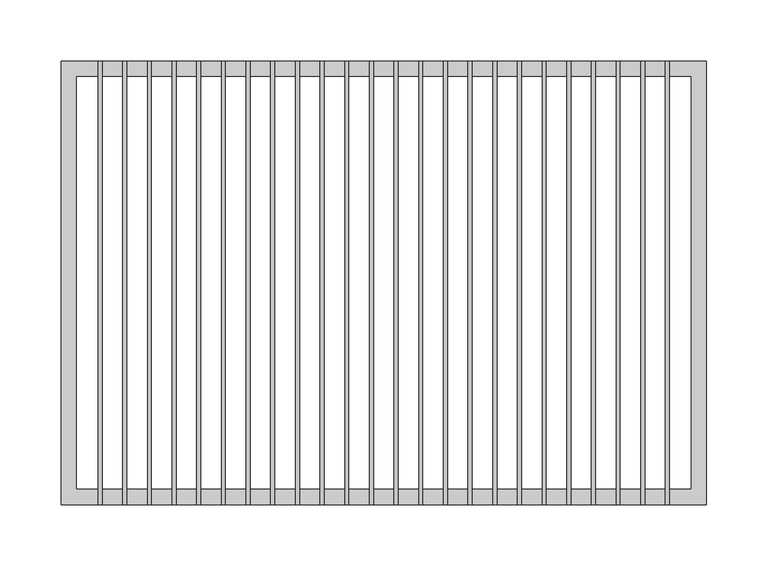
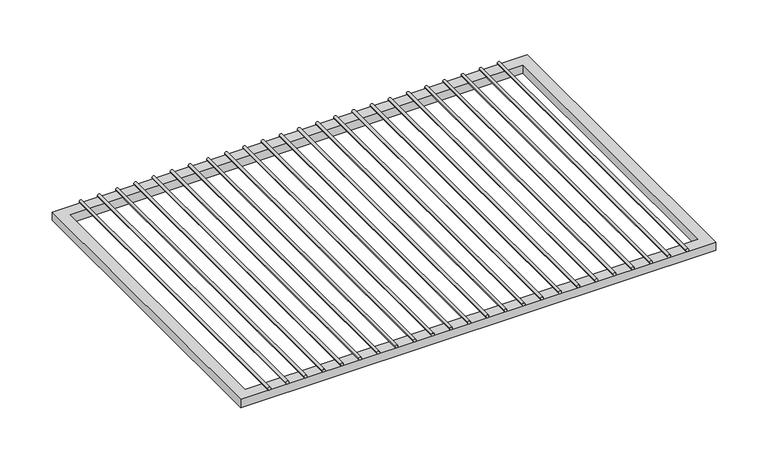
"""IFC4 building model written with IfcOpenShell, lengths in millimetres: furniture geometry, HermanMiller_CoStruc_CO252_CWireShelf : 14D x 20W."""

from ifc_helpers import new_model, si_unit, point, frame, frame_2d, origin, place, context, project, spatial, polyline, circle_curve, trimmed, segment, composite_curve, outline, extrude, source, transform, mapped, element, save


def furniture_004cbe47(model_context):
    return source(origin(), model_context, "Body", "SweptSolid", [
        extrude(outline(composite_curve([segment(trimmed(circle_curve(frame_2d((788.19502, -211.6206522)), 1.5875), [point((788.19502, -213.2081522))], [point((788.19502, -210.0331522))], False, "CARTESIAN"), True, "CONTINUOUS"), segment(trimmed(circle_curve(frame_2d((788.19502, -211.6206522)), 1.5875), [point((788.19502, -210.0331522))], [point((788.19502, -213.2081522))], False, "CARTESIAN"), True, "CONTINUOUS")], self_intersect=False)), frame((0.0, -180.975, 0.0), z_axis=(0.0, 1.0, 0.0), x_axis=(0.0, 0.0, 1.0)), (0.0, 0.0, 1.0), 361.95),
        extrude(outline(composite_curve([segment(trimmed(circle_curve(frame_2d((788.19502, -191.4663043)), 1.5875), [point((788.19502, -193.0538043))], [point((788.19502, -189.8788043))], False, "CARTESIAN"), True, "CONTINUOUS"), segment(trimmed(circle_curve(frame_2d((788.19502, -191.4663043)), 1.5875), [point((788.19502, -189.8788043))], [point((788.19502, -193.0538043))], False, "CARTESIAN"), True, "CONTINUOUS")], self_intersect=False)), frame((0.0, -180.975, 0.0), z_axis=(0.0, 1.0, 0.0), x_axis=(0.0, 0.0, 1.0)), (0.0, 0.0, 1.0), 361.95),
        extrude(outline(composite_curve([segment(trimmed(circle_curve(frame_2d((788.19502, -171.3119565)), 1.5875), [point((788.19502, -172.8994565))], [point((788.19502, -169.7244565))], False, "CARTESIAN"), True, "CONTINUOUS"), segment(trimmed(circle_curve(frame_2d((788.19502, -171.3119565)), 1.5875), [point((788.19502, -169.7244565))], [point((788.19502, -172.8994565))], False, "CARTESIAN"), True, "CONTINUOUS")], self_intersect=False)), frame((0.0, -180.975, 0.0), z_axis=(0.0, 1.0, 0.0), x_axis=(0.0, 0.0, 1.0)), (0.0, 0.0, 1.0), 361.95),
        extrude(outline(composite_curve([segment(trimmed(circle_curve(frame_2d((788.19502, -151.1576087)), 1.5875), [point((788.19502, -152.7451087))], [point((788.19502, -149.5701087))], False, "CARTESIAN"), True, "CONTINUOUS"), segment(trimmed(circle_curve(frame_2d((788.19502, -151.1576087)), 1.5875), [point((788.19502, -149.5701087))], [point((788.19502, -152.7451087))], False, "CARTESIAN"), True, "CONTINUOUS")], self_intersect=False)), frame((0.0, -180.975, 0.0), z_axis=(0.0, 1.0, 0.0), x_axis=(0.0, 0.0, 1.0)), (0.0, 0.0, 1.0), 361.95),
        extrude(outline(composite_curve([segment(trimmed(circle_curve(frame_2d((788.19502, -131.0032609)), 1.5875), [point((788.19502, -132.5907609))], [point((788.19502, -129.4157609))], False, "CARTESIAN"), True, "CONTINUOUS"), segment(trimmed(circle_curve(frame_2d((788.19502, -131.0032609)), 1.5875), [point((788.19502, -129.4157609))], [point((788.19502, -132.5907609))], False, "CARTESIAN"), True, "CONTINUOUS")], self_intersect=False)), frame((0.0, -180.975, 0.0), z_axis=(0.0, 1.0, 0.0), x_axis=(0.0, 0.0, 1.0)), (0.0, 0.0, 1.0), 361.95),
        extrude(outline(composite_curve([segment(trimmed(circle_curve(frame_2d((788.19502, -110.848913)), 1.5875), [point((788.19502, -112.436413))], [point((788.19502, -109.261413))], False, "CARTESIAN"), True, "CONTINUOUS"), segment(trimmed(circle_curve(frame_2d((788.19502, -110.848913)), 1.5875), [point((788.19502, -109.261413))], [point((788.19502, -112.436413))], False, "CARTESIAN"), True, "CONTINUOUS")], self_intersect=False)), frame((0.0, -180.975, 0.0), z_axis=(0.0, 1.0, 0.0), x_axis=(0.0, 0.0, 1.0)), (0.0, 0.0, 1.0), 361.95),
        extrude(outline(composite_curve([segment(trimmed(circle_curve(frame_2d((788.19502, -90.6945652)), 1.5875), [point((788.19502, -92.2820652))], [point((788.19502, -89.1070652))], False, "CARTESIAN"), True, "CONTINUOUS"), segment(trimmed(circle_curve(frame_2d((788.19502, -90.6945652)), 1.5875), [point((788.19502, -89.1070652))], [point((788.19502, -92.2820652))], False, "CARTESIAN"), True, "CONTINUOUS")], self_intersect=False)), frame((0.0, -180.975, 0.0), z_axis=(0.0, 1.0, 0.0), x_axis=(0.0, 0.0, 1.0)), (0.0, 0.0, 1.0), 361.95),
        extrude(outline(composite_curve([segment(trimmed(circle_curve(frame_2d((788.19502, -70.5402174)), 1.5875), [point((788.19502, -72.1277174))], [point((788.19502, -68.9527174))], False, "CARTESIAN"), True, "CONTINUOUS"), segment(trimmed(circle_curve(frame_2d((788.19502, -70.5402174)), 1.5875), [point((788.19502, -68.9527174))], [point((788.19502, -72.1277174))], False, "CARTESIAN"), True, "CONTINUOUS")], self_intersect=False)), frame((0.0, -180.975, 0.0), z_axis=(0.0, 1.0, 0.0), x_axis=(0.0, 0.0, 1.0)), (0.0, 0.0, 1.0), 361.95),
        extrude(outline(composite_curve([segment(trimmed(circle_curve(frame_2d((788.19502, -50.3858696)), 1.5875), [point((788.19502, -51.9733696))], [point((788.19502, -48.7983696))], False, "CARTESIAN"), True, "CONTINUOUS"), segment(trimmed(circle_curve(frame_2d((788.19502, -50.3858696)), 1.5875), [point((788.19502, -48.7983696))], [point((788.19502, -51.9733696))], False, "CARTESIAN"), True, "CONTINUOUS")], self_intersect=False)), frame((0.0, -180.975, 0.0), z_axis=(0.0, 1.0, 0.0), x_axis=(0.0, 0.0, 1.0)), (0.0, 0.0, 1.0), 361.95),
        extrude(outline(composite_curve([segment(trimmed(circle_curve(frame_2d((788.19502, -30.2315217)), 1.5875), [point((788.19502, -31.8190217))], [point((788.19502, -28.6440217))], False, "CARTESIAN"), True, "CONTINUOUS"), segment(trimmed(circle_curve(frame_2d((788.19502, -30.2315217)), 1.5875), [point((788.19502, -28.6440217))], [point((788.19502, -31.8190217))], False, "CARTESIAN"), True, "CONTINUOUS")], self_intersect=False)), frame((0.0, -180.975, 0.0), z_axis=(0.0, 1.0, 0.0), x_axis=(0.0, 0.0, 1.0)), (0.0, 0.0, 1.0), 361.95),
        extrude(outline(composite_curve([segment(trimmed(circle_curve(frame_2d((788.19502, -10.0771739)), 1.5875), [point((788.19502, -11.6646739))], [point((788.19502, -8.4896739))], False, "CARTESIAN"), True, "CONTINUOUS"), segment(trimmed(circle_curve(frame_2d((788.19502, -10.0771739)), 1.5875), [point((788.19502, -8.4896739))], [point((788.19502, -11.6646739))], False, "CARTESIAN"), True, "CONTINUOUS")], self_intersect=False)), frame((0.0, -180.975, 0.0), z_axis=(0.0, 1.0, 0.0), x_axis=(0.0, 0.0, 1.0)), (0.0, 0.0, 1.0), 361.95),
        extrude(outline(composite_curve([segment(trimmed(circle_curve(frame_2d((788.19502, 10.0771739)), 1.5875), [point((788.19502, 8.4896739))], [point((788.19502, 11.6646739))], False, "CARTESIAN"), True, "CONTINUOUS"), segment(trimmed(circle_curve(frame_2d((788.19502, 10.0771739)), 1.5875), [point((788.19502, 11.6646739))], [point((788.19502, 8.4896739))], False, "CARTESIAN"), True, "CONTINUOUS")], self_intersect=False)), frame((0.0, -180.975, 0.0), z_axis=(0.0, 1.0, 0.0), x_axis=(0.0, 0.0, 1.0)), (0.0, 0.0, 1.0), 361.95),
        extrude(outline(composite_curve([segment(trimmed(circle_curve(frame_2d((788.19502, 30.2315217)), 1.5875), [point((788.19502, 28.6440217))], [point((788.19502, 31.8190217))], False, "CARTESIAN"), True, "CONTINUOUS"), segment(trimmed(circle_curve(frame_2d((788.19502, 30.2315217)), 1.5875), [point((788.19502, 31.8190217))], [point((788.19502, 28.6440217))], False, "CARTESIAN"), True, "CONTINUOUS")], self_intersect=False)), frame((0.0, -180.975, 0.0), z_axis=(0.0, 1.0, 0.0), x_axis=(0.0, 0.0, 1.0)), (0.0, 0.0, 1.0), 361.95),
        extrude(outline(composite_curve([segment(trimmed(circle_curve(frame_2d((788.19502, 50.3858696)), 1.5875), [point((788.19502, 48.7983696))], [point((788.19502, 51.9733696))], False, "CARTESIAN"), True, "CONTINUOUS"), segment(trimmed(circle_curve(frame_2d((788.19502, 50.3858696)), 1.5875), [point((788.19502, 51.9733696))], [point((788.19502, 48.7983696))], False, "CARTESIAN"), True, "CONTINUOUS")], self_intersect=False)), frame((0.0, -180.975, 0.0), z_axis=(0.0, 1.0, 0.0), x_axis=(0.0, 0.0, 1.0)), (0.0, 0.0, 1.0), 361.95),
        extrude(outline(composite_curve([segment(trimmed(circle_curve(frame_2d((788.19502, 70.5402174)), 1.5875), [point((788.19502, 68.9527174))], [point((788.19502, 72.1277174))], False, "CARTESIAN"), True, "CONTINUOUS"), segment(trimmed(circle_curve(frame_2d((788.19502, 70.5402174)), 1.5875), [point((788.19502, 72.1277174))], [point((788.19502, 68.9527174))], False, "CARTESIAN"), True, "CONTINUOUS")], self_intersect=False)), frame((0.0, -180.975, 0.0), z_axis=(0.0, 1.0, 0.0), x_axis=(0.0, 0.0, 1.0)), (0.0, 0.0, 1.0), 361.95),
        extrude(outline(composite_curve([segment(trimmed(circle_curve(frame_2d((788.19502, 90.6945652)), 1.5875), [point((788.19502, 89.1070652))], [point((788.19502, 92.2820652))], False, "CARTESIAN"), True, "CONTINUOUS"), segment(trimmed(circle_curve(frame_2d((788.19502, 90.6945652)), 1.5875), [point((788.19502, 92.2820652))], [point((788.19502, 89.1070652))], False, "CARTESIAN"), True, "CONTINUOUS")], self_intersect=False)), frame((0.0, -180.975, 0.0), z_axis=(0.0, 1.0, 0.0), x_axis=(0.0, 0.0, 1.0)), (0.0, 0.0, 1.0), 361.95),
        extrude(outline(composite_curve([segment(trimmed(circle_curve(frame_2d((788.19502, 110.848913)), 1.5875), [point((788.19502, 109.261413))], [point((788.19502, 112.436413))], False, "CARTESIAN"), True, "CONTINUOUS"), segment(trimmed(circle_curve(frame_2d((788.19502, 110.848913)), 1.5875), [point((788.19502, 112.436413))], [point((788.19502, 109.261413))], False, "CARTESIAN"), True, "CONTINUOUS")], self_intersect=False)), frame((0.0, -180.975, 0.0), z_axis=(0.0, 1.0, 0.0), x_axis=(0.0, 0.0, 1.0)), (0.0, 0.0, 1.0), 361.95),
        extrude(outline(composite_curve([segment(trimmed(circle_curve(frame_2d((788.19502, 131.0032609)), 1.5875), [point((788.19502, 129.4157609))], [point((788.19502, 132.5907609))], False, "CARTESIAN"), True, "CONTINUOUS"), segment(trimmed(circle_curve(frame_2d((788.19502, 131.0032609)), 1.5875), [point((788.19502, 132.5907609))], [point((788.19502, 129.4157609))], False, "CARTESIAN"), True, "CONTINUOUS")], self_intersect=False)), frame((0.0, -180.975, 0.0), z_axis=(0.0, 1.0, 0.0), x_axis=(0.0, 0.0, 1.0)), (0.0, 0.0, 1.0), 361.95),
        extrude(outline(composite_curve([segment(trimmed(circle_curve(frame_2d((788.19502, 151.1576087)), 1.5875), [point((788.19502, 149.5701087))], [point((788.19502, 152.7451087))], False, "CARTESIAN"), True, "CONTINUOUS"), segment(trimmed(circle_curve(frame_2d((788.19502, 151.1576087)), 1.5875), [point((788.19502, 152.7451087))], [point((788.19502, 149.5701087))], False, "CARTESIAN"), True, "CONTINUOUS")], self_intersect=False)), frame((0.0, -180.975, 0.0), z_axis=(0.0, 1.0, 0.0), x_axis=(0.0, 0.0, 1.0)), (0.0, 0.0, 1.0), 361.95),
        extrude(outline(composite_curve([segment(trimmed(circle_curve(frame_2d((788.19502, 171.3119565)), 1.5875), [point((788.19502, 169.7244565))], [point((788.19502, 172.8994565))], False, "CARTESIAN"), True, "CONTINUOUS"), segment(trimmed(circle_curve(frame_2d((788.19502, 171.3119565)), 1.5875), [point((788.19502, 172.8994565))], [point((788.19502, 169.7244565))], False, "CARTESIAN"), True, "CONTINUOUS")], self_intersect=False)), frame((0.0, -180.975, 0.0), z_axis=(0.0, 1.0, 0.0), x_axis=(0.0, 0.0, 1.0)), (0.0, 0.0, 1.0), 361.95),
        extrude(outline(composite_curve([segment(trimmed(circle_curve(frame_2d((788.19502, 191.4663043)), 1.5875), [point((788.19502, 189.8788043))], [point((788.19502, 193.0538043))], False, "CARTESIAN"), True, "CONTINUOUS"), segment(trimmed(circle_curve(frame_2d((788.19502, 191.4663043)), 1.5875), [point((788.19502, 193.0538043))], [point((788.19502, 189.8788043))], False, "CARTESIAN"), True, "CONTINUOUS")], self_intersect=False)), frame((0.0, -180.975, 0.0), z_axis=(0.0, 1.0, 0.0), x_axis=(0.0, 0.0, 1.0)), (0.0, 0.0, 1.0), 361.95),
        extrude(outline(composite_curve([segment(trimmed(circle_curve(frame_2d((788.19502, 211.6206522)), 1.5875), [point((788.19502, 210.0331522))], [point((788.19502, 213.2081522))], False, "CARTESIAN"), True, "CONTINUOUS"), segment(trimmed(circle_curve(frame_2d((788.19502, 211.6206522)), 1.5875), [point((788.19502, 213.2081522))], [point((788.19502, 210.0331522))], False, "CARTESIAN"), True, "CONTINUOUS")], self_intersect=False)), frame((0.0, -180.975, 0.0), z_axis=(0.0, 1.0, 0.0), x_axis=(0.0, 0.0, 1.0)), (0.0, 0.0, 1.0), 361.95),
        extrude(outline(composite_curve([segment(trimmed(circle_curve(frame_2d((788.19502, -231.775)), 1.5875), [point((788.19502, -233.3625))], [point((788.19502, -230.1875))], False, "CARTESIAN"), True, "CONTINUOUS"), segment(trimmed(circle_curve(frame_2d((788.19502, -231.775)), 1.5875), [point((788.19502, -230.1875))], [point((788.19502, -233.3625))], False, "CARTESIAN"), True, "CONTINUOUS")], self_intersect=False)), frame((0.0, -180.975, 0.0), z_axis=(0.0, 1.0, 0.0), x_axis=(0.0, 0.0, 1.0)), (0.0, 0.0, 1.0), 361.95),
        extrude(outline(composite_curve([segment(trimmed(circle_curve(frame_2d((788.19502, 231.775)), 1.5875), [point((788.19502, 230.1875))], [point((788.19502, 233.3625))], False, "CARTESIAN"), True, "CONTINUOUS"), segment(trimmed(circle_curve(frame_2d((788.19502, 231.775)), 1.5875), [point((788.19502, 233.3625))], [point((788.19502, 230.1875))], False, "CARTESIAN"), True, "CONTINUOUS")], self_intersect=False)), frame((0.0, -180.975, 0.0), z_axis=(0.0, 1.0, 0.0), x_axis=(0.0, 0.0, 1.0)), (0.0, 0.0, 1.0), 361.95),
        extrude(outline(polyline([(-263.525, -180.975), (-263.525, 180.975), (263.525, 180.975), (263.525, -180.975), (-263.525, -180.975)]), holes=[polyline([(-250.825, -168.275), (250.825, -168.275), (250.825, 168.275), (-250.825, 168.275), (-250.825, -168.275)])]), frame((0.0, 0.0, 777.08252), z_axis=(0.0, 0.0, 1.0), x_axis=(1.0, 0.0, 0.0)), (0.0, 0.0, 1.0), 9.525),
    ])


if __name__ == "__main__":
    model = new_model("IFC4")
    model_context = context("Model", 3, world=origin())
    ifc_project = project(units=[si_unit("LENGTHUNIT", "METRE", prefix="MILLI")], contexts=[model_context])
    site = spatial("IfcSite", under=ifc_project)
    building = spatial("IfcBuilding", under=site)
    placement = place(None, origin())
    furniture_shape = furniture_004cbe47(model_context)
    element("IfcFurniture", 1, ObjectType="HermanMiller_CoStruc_CO252_CWireShelf : 14D x 20W", at=placement, inside=building, context=model_context, shape_type="MappedRepresentation", body=[
        mapped(furniture_shape, transform((0.0, 0.0, 0.0), x_axis=(1.0, 0.0, 0.0), y_axis=(0.0, 1.0, 0.0), z_axis=(0.0, 0.0, 1.0))),
    ])
    save(model, "model.ifc")
